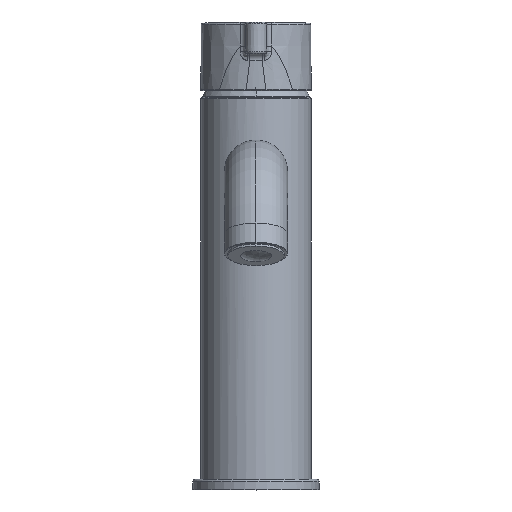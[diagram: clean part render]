
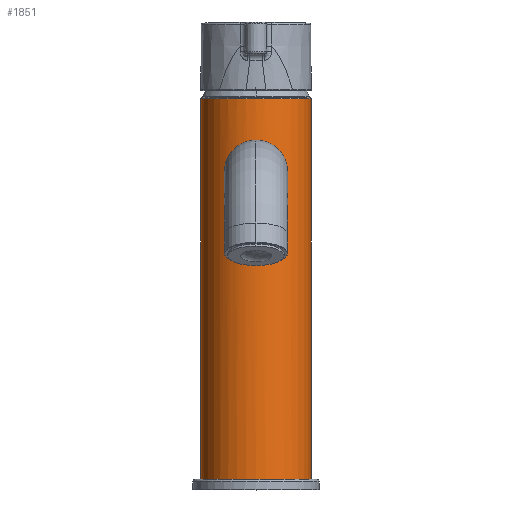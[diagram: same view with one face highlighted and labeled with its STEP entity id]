
A CAD part, top view. The second image highlights one B-rep face of the part: STEP entity #1851.
In plain terms, the highlighted cylindrical face has radius 21 mm (diameter 42 mm), a partial arc.
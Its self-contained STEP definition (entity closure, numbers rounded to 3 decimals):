
#1=DIRECTION('',(0.,1.,0.));
#2=VECTOR('',#1,144.5);
#3=CARTESIAN_POINT('',(21.,0.,0.));
#4=LINE('',#3,#2);
#31=DIRECTION('',(0.,1.,0.));
#32=VECTOR('',#31,144.5);
#33=CARTESIAN_POINT('',(-21.,0.,0.));
#34=LINE('',#33,#32);
#35=CARTESIAN_POINT('',(0.,128.7,21.));
#36=CARTESIAN_POINT('',(-0.399,128.7,21.));
#37=CARTESIAN_POINT('',(-1.197,128.66,20.977));
#38=CARTESIAN_POINT('',(-2.393,128.48,20.875));
#39=CARTESIAN_POINT('',(-3.584,128.175,20.704));
#40=CARTESIAN_POINT('',(-4.757,127.741,20.466));
#41=CARTESIAN_POINT('',(-5.906,127.173,20.164));
#42=CARTESIAN_POINT('',(-7.012,126.468,19.806));
#43=CARTESIAN_POINT('',(-8.057,125.627,19.403));
#44=CARTESIAN_POINT('',(-9.009,124.665,18.978));
#45=CARTESIAN_POINT('',(-9.844,123.606,18.556));
#46=CARTESIAN_POINT('',(-10.545,122.478,18.166));
#47=CARTESIAN_POINT('',(-11.1,121.318,17.83));
#48=CARTESIAN_POINT('',(-11.516,120.146,17.562));
#49=CARTESIAN_POINT('',(-11.801,118.98,17.371));
#50=CARTESIAN_POINT('',(-11.966,117.821,17.257));
#51=CARTESIAN_POINT('',(-12.018,116.667,17.221));
#52=CARTESIAN_POINT('',(-11.96,115.512,17.262));
#53=CARTESIAN_POINT('',(-11.788,114.353,17.38));
#54=CARTESIAN_POINT('',(-11.496,113.186,17.576));
#55=CARTESIAN_POINT('',(-11.072,112.016,17.847));
#56=CARTESIAN_POINT('',(-10.508,110.856,18.187));
#57=CARTESIAN_POINT('',(-9.797,109.728,18.581));
#58=CARTESIAN_POINT('',(-8.956,108.676,19.003));
#59=CARTESIAN_POINT('',(-8.013,107.734,19.421));
#60=CARTESIAN_POINT('',(-6.987,106.915,19.814));
#61=CARTESIAN_POINT('',(-5.897,106.223,20.166));
#62=CARTESIAN_POINT('',(-4.762,105.661,20.464));
#63=CARTESIAN_POINT('',(-3.589,105.227,20.703));
#64=CARTESIAN_POINT('',(-2.395,104.92,20.875));
#65=CARTESIAN_POINT('',(-1.194,104.739,20.978));
#66=CARTESIAN_POINT('',(-0.397,104.7,21.));
#67=CARTESIAN_POINT('',(0.,104.7,21.));
#69=CARTESIAN_POINT('',(0.,104.7,21.));
#70=CARTESIAN_POINT('',(0.399,104.7,21.));
#71=CARTESIAN_POINT('',(1.197,104.74,20.977));
#72=CARTESIAN_POINT('',(2.393,104.92,20.875));
#73=CARTESIAN_POINT('',(3.584,105.225,20.704));
#74=CARTESIAN_POINT('',(4.757,105.659,20.466));
#75=CARTESIAN_POINT('',(5.906,106.227,20.164));
#76=CARTESIAN_POINT('',(7.012,106.932,19.806));
#77=CARTESIAN_POINT('',(8.057,107.773,19.403));
#78=CARTESIAN_POINT('',(9.009,108.735,18.978));
#79=CARTESIAN_POINT('',(9.844,109.794,18.556));
#80=CARTESIAN_POINT('',(10.545,110.922,18.166));
#81=CARTESIAN_POINT('',(11.1,112.082,17.83));
#82=CARTESIAN_POINT('',(11.516,113.254,17.562));
#83=CARTESIAN_POINT('',(11.801,114.42,17.371));
#84=CARTESIAN_POINT('',(11.966,115.579,17.257));
#85=CARTESIAN_POINT('',(12.018,116.733,17.221));
#86=CARTESIAN_POINT('',(11.96,117.888,17.262));
#87=CARTESIAN_POINT('',(11.788,119.047,17.38));
#88=CARTESIAN_POINT('',(11.496,120.214,17.576));
#89=CARTESIAN_POINT('',(11.072,121.384,17.847));
#90=CARTESIAN_POINT('',(10.508,122.544,18.187));
#91=CARTESIAN_POINT('',(9.797,123.672,18.581));
#92=CARTESIAN_POINT('',(8.956,124.724,19.003));
#93=CARTESIAN_POINT('',(8.013,125.666,19.421));
#94=CARTESIAN_POINT('',(6.987,126.485,19.814));
#95=CARTESIAN_POINT('',(5.897,127.177,20.166));
#96=CARTESIAN_POINT('',(4.762,127.739,20.464));
#97=CARTESIAN_POINT('',(3.589,128.173,20.703));
#98=CARTESIAN_POINT('',(2.395,128.48,20.875));
#99=CARTESIAN_POINT('',(1.194,128.661,20.978));
#100=CARTESIAN_POINT('',(0.397,128.7,21.));
#101=CARTESIAN_POINT('',(0.,128.7,21.));
#113=CARTESIAN_POINT('',(0.,144.5,0.));
#114=DIRECTION('',(0.,-1.,0.));
#115=DIRECTION('',(1.,0.,0.));
#116=AXIS2_PLACEMENT_3D('',#113,#114,#115);
#118=CARTESIAN_POINT('',(0.,144.5,0.));
#119=DIRECTION('',(0.,-1.,0.));
#120=DIRECTION('',(1.,0.,0.017));
#121=AXIS2_PLACEMENT_3D('',#118,#119,#120);
#1245=CARTESIAN_POINT('',(0.,0.,0.));
#1246=DIRECTION('',(0.,1.,0.));
#1247=DIRECTION('',(-1.,0.,0.));
#1248=AXIS2_PLACEMENT_3D('',#1245,#1246,#1247);
#1626=CARTESIAN_POINT('',(-21.,144.5,0.));
#1627=VERTEX_POINT('',#1626);
#1630=CARTESIAN_POINT('',(21.,144.5,0.));
#1631=VERTEX_POINT('',#1630);
#1632=CARTESIAN_POINT('',(20.997,144.5,0.351));
#1633=VERTEX_POINT('',#1632);
#1634=CARTESIAN_POINT('',(-21.,0.,0.));
#1635=VERTEX_POINT('',#1634);
#1636=CARTESIAN_POINT('',(21.,0.,0.));
#1637=VERTEX_POINT('',#1636);
#1638=VERTEX_POINT('',#35);
#1639=VERTEX_POINT('',#67);
#1830=CARTESIAN_POINT('',(0.,152.25,0.));
#1831=DIRECTION('',(0.,-1.,0.));
#1832=DIRECTION('',(-1.,0.,0.));
#1833=AXIS2_PLACEMENT_3D('',#1830,#1831,#1832);
#1834=CYLINDRICAL_SURFACE('',#1833,21.);
#1835=ORIENTED_EDGE('',*,*,#1817,.T.);
#1837=ORIENTED_EDGE('',*,*,#1836,.F.);
#1839=ORIENTED_EDGE('',*,*,#1838,.F.);
#1840=ORIENTED_EDGE('',*,*,#1811,.F.);
#1842=ORIENTED_EDGE('',*,*,#1841,.F.);
#1843=EDGE_LOOP('',(#1835,#1837,#1839,#1840,#1842));
#1844=FACE_OUTER_BOUND('',#1843,.F.);
#1846=ORIENTED_EDGE('',*,*,#1845,.T.);
#1848=ORIENTED_EDGE('',*,*,#1847,.T.);
#1849=EDGE_LOOP('',(#1846,#1848));
#1850=FACE_BOUND('',#1849,.F.);
#1851=ADVANCED_FACE('',(#1844,#1850),#1834,.T.);
#68=B_SPLINE_CURVE_WITH_KNOTS('',3,(#35,#36,#37,#38,#39,#40,#41,#42,#43,#44,#45,
#46,#47,#48,#49,#50,#51,#52,#53,#54,#55,#56,#57,#58,#59,#60,#61,#62,#63,#64,#65,
#66,#67),.UNSPECIFIED.,.F.,.F.,(4,1,1,1,1,1,1,1,1,1,1,1,1,1,1,1,1,1,1,1,1,1,1,1,
1,1,1,1,1,1,4),(0.,0.033,0.067,0.1,
0.133,0.167,0.2,0.233,0.267,
0.3,0.333,0.367,0.4,0.433,
0.467,0.5,0.533,0.567,0.6,
0.633,0.667,0.7,0.733,0.767,
0.8,0.833,0.867,0.9,0.933,
0.967,1.),.UNSPECIFIED.);
#102=B_SPLINE_CURVE_WITH_KNOTS('',3,(#69,#70,#71,#72,#73,#74,#75,#76,#77,#78,
#79,#80,#81,#82,#83,#84,#85,#86,#87,#88,#89,#90,#91,#92,#93,#94,#95,#96,#97,#98,
#99,#100,#101),.UNSPECIFIED.,.F.,.F.,(4,1,1,1,1,1,1,1,1,1,1,1,1,1,1,1,1,1,1,1,1,
1,1,1,1,1,1,1,1,1,4),(0.,0.033,0.067,0.1,
0.133,0.167,0.2,0.233,0.267,
0.3,0.333,0.367,0.4,0.433,
0.467,0.5,0.533,0.567,0.6,
0.633,0.667,0.7,0.733,0.767,
0.8,0.833,0.867,0.9,0.933,
0.967,1.),.UNSPECIFIED.);
#117=CIRCLE('',#116,21.);
#122=CIRCLE('',#121,21.);
#1249=CIRCLE('',#1248,21.);
#1811=EDGE_CURVE('',#1637,#1631,#4,.T.);
#1817=EDGE_CURVE('',#1635,#1627,#34,.T.);
#1836=EDGE_CURVE('',#1633,#1627,#122,.T.);
#1838=EDGE_CURVE('',#1631,#1633,#117,.T.);
#1841=EDGE_CURVE('',#1635,#1637,#1249,.T.);
#1845=EDGE_CURVE('',#1638,#1639,#68,.T.);
#1847=EDGE_CURVE('',#1639,#1638,#102,.T.);
